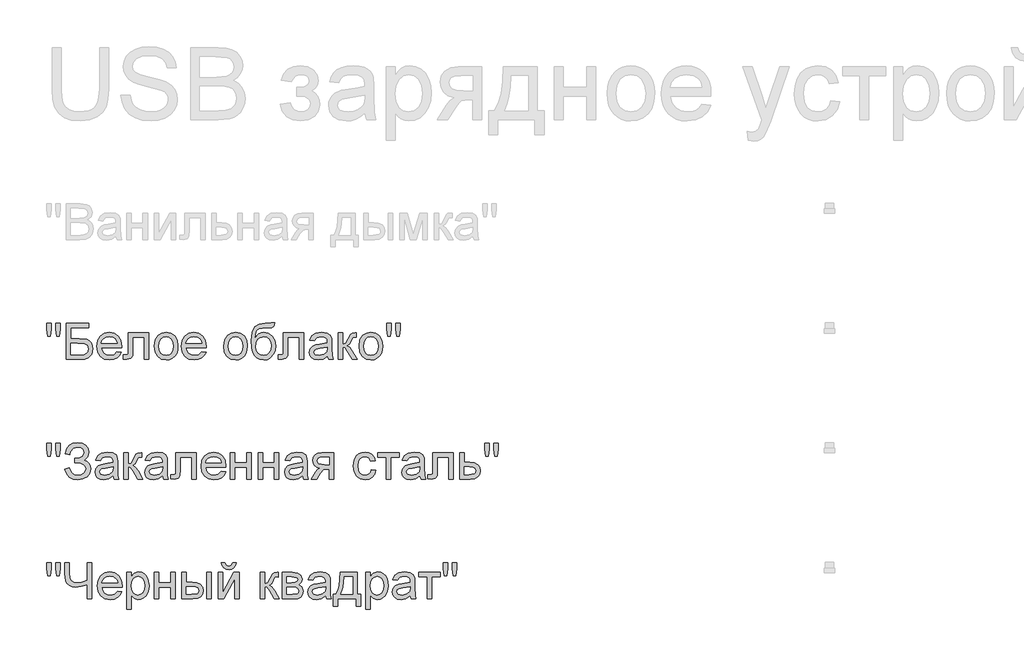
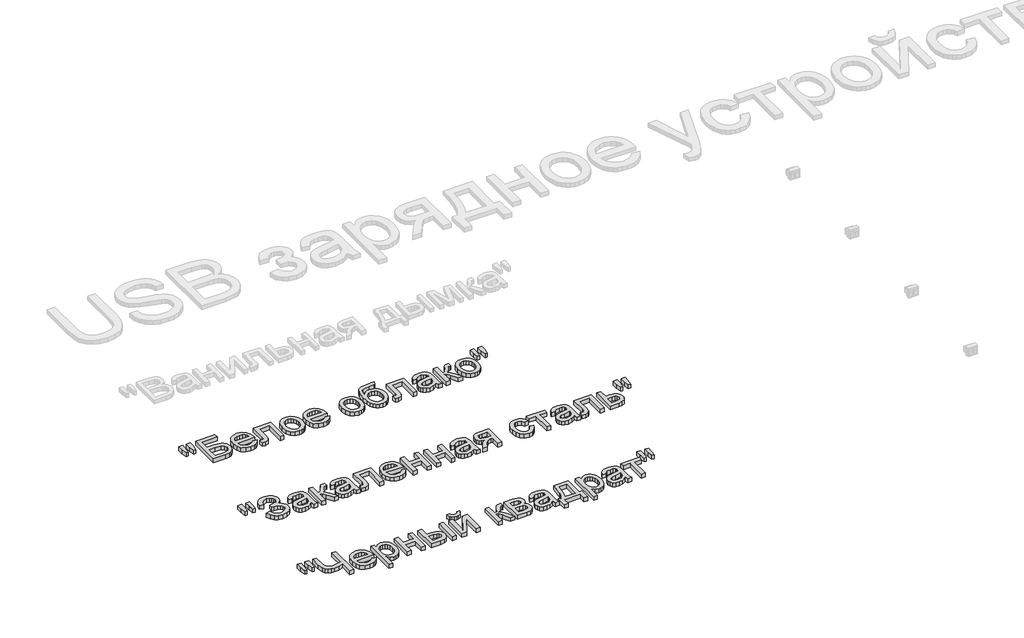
# One storey, part 29 of 168: 3 proxies.
"""IFC4 building model written with IfcOpenShell, lengths in millimetres."""

import ifcopenshell
import ifcopenshell.guid

model = None  # the IFC model being written
_history = None  # IfcOwnerHistory: only IFC2X3 demands one
_inside = {}  # id of a spatial element -> (the spatial element, [elements in it])
_under = {}  # id of a project, library or spatial element -> (it, [spatial elements below it])
_declared = {}  # id of a project -> (the project, [libraries it declares])
_typed = {}  # id of a type object -> (the type object, [elements of that type])
_made_of = {}  # id of a material, layer set ... -> (it, [elements and type objects made of it])


def new_model(schema):
    """Start an empty IFC model of exactly this schema.

    Asked for "IFC4X3", IfcOpenShell would pick the latest addendum, in which some entities
    have other attributes; the version numbers below select the first issue.
    IFC2X3 requires an IfcOwnerHistory on every rooted entity: one is made here for all.
    """
    global model, _history
    if schema == "IFC4X3":
        model = ifcopenshell.file(schema_version=(4, 3, 0, 0))
    else:
        model = ifcopenshell.file(schema=schema)
    _inside.clear()
    _under.clear()
    _declared.clear()
    _typed.clear()
    _made_of.clear()
    _history = None
    if model.schema == "IFC2X3":
        org = make("IfcOrganization", Name="unknown")
        user = make(
            "IfcPersonAndOrganization",
            ThePerson=make("IfcPerson", FamilyName="unknown"),
            TheOrganization=org,
        )
        app = make(
            "IfcApplication",
            ApplicationDeveloper=org,
            Version="unknown",
            ApplicationFullName="unknown",
            ApplicationIdentifier="unknown",
        )
        _history = make(
            "IfcOwnerHistory",
            OwningUser=user,
            OwningApplication=app,
            ChangeAction="ADDED",
            CreationDate=0,
        )
    return model


def make(cls, **values):
    """One entity of the class cls with the attributes given. An attribute that is None is left unset."""
    return model.create_entity(
        cls, **{name: value for name, value in values.items() if value is not None}
    )


def rooted(cls, **values):
    """An entity with a GlobalId (a new one), such as an element, a storey or a relation."""
    return make(cls, GlobalId=ifcopenshell.guid.new(), OwnerHistory=_history, **values)


def si_unit(unit_type, name, prefix=None):
    """IfcSIUnit, for example si_unit("LENGTHUNIT", "METRE", prefix="MILLI")."""
    return make("IfcSIUnit", UnitType=unit_type, Prefix=prefix, Name=name)


def assignment(units):
    """IfcUnitAssignment: the units of a project."""
    return None if units is None else make("IfcUnitAssignment", Units=units)


def point(xyz):
    """IfcCartesianPoint."""
    return None if xyz is None else make("IfcCartesianPoint", Coordinates=xyz)


def direction(xyz):
    """IfcDirection."""
    return None if xyz is None else make("IfcDirection", DirectionRatios=xyz)


def frame(location, z_axis=None, x_axis=None):
    """IfcAxis2Placement3D, a coordinate frame: its origin and axes. An axis left out is left unset."""
    return make(
        "IfcAxis2Placement3D",
        Location=point(location),
        Axis=direction(z_axis),
        RefDirection=direction(x_axis),
    )


def origin():
    """The frame at (0, 0, 0) with its axes left unset."""
    return frame((0.0, 0.0, 0.0))


def origin_with_axes():
    """The frame at (0, 0, 0) with the z axis (0, 0, 1) and the x axis (1, 0, 0) written out."""
    return frame((0.0, 0.0, 0.0), z_axis=(0.0, 0.0, 1.0), x_axis=(1.0, 0.0, 0.0))


def place(relative_to, where):
    """IfcLocalPlacement: puts the frame where relative to a parent placement (None: the world)."""
    return make(
        "IfcLocalPlacement", PlacementRelTo=relative_to, RelativePlacement=where
    )


def context(
    kind, dimensions, precision=None, world=None, true_north=None, identifier=None
):
    """IfcGeometricRepresentationContext, for example the 3D "Model" context."""
    return make(
        "IfcGeometricRepresentationContext",
        ContextIdentifier=identifier,
        ContextType=kind,
        CoordinateSpaceDimension=dimensions,
        Precision=precision,
        WorldCoordinateSystem=world,
        TrueNorth=true_north,
    )


def project(units=None, contexts=None):
    """IfcProject with its units and contexts."""
    return rooted(
        "IfcProject",
        Name="project",
        RepresentationContexts=contexts,
        UnitsInContext=assignment(units),
    )


def spatial(cls, under=None, at=None, **own):
    """A site, building, storey or space (cls), placed at a placement, below another one or the project."""
    s = rooted(cls, ObjectPlacement=at, **own)
    if under is not None:
        _under.setdefault(under.id(), (under, []))[1].append(s)
    return s


def polyline(points):
    """IfcPolyline through the points."""
    return make("IfcPolyline", Points=[point(p) for p in points])


def outline(outer, holes=None, kind="AREA"):
    """IfcArbitraryClosedProfileDef: a profile drawn as a closed curve; with holes, ...WithVoids."""
    if holes is None:
        return make("IfcArbitraryClosedProfileDef", ProfileType=kind, OuterCurve=outer)
    return make(
        "IfcArbitraryProfileDefWithVoids",
        ProfileType=kind,
        OuterCurve=outer,
        InnerCurves=holes,
    )


def extrude(swept, where, along, depth):
    """IfcExtrudedAreaSolid: the profile swept, set in the frame where, extruded along a direction by depth."""
    return make(
        "IfcExtrudedAreaSolid",
        SweptArea=swept,
        Position=where,
        ExtrudedDirection=direction(along),
        Depth=depth,
    )


def shape(context_of_items, identifier, shape_type, items):
    """IfcShapeRepresentation: the items that make up one representation, for example the "Body"."""
    return make(
        "IfcShapeRepresentation",
        ContextOfItems=context_of_items,
        RepresentationIdentifier=identifier,
        RepresentationType=shape_type,
        Items=items,
    )


def made_of(thing, what):
    """Note that an element or type object is made of a material, layer set ...; save() writes the relation."""
    if what is not None:
        _made_of.setdefault(what.id(), (what, []))[1].append(thing)
    return thing


def element(
    cls,
    number,
    at=None,
    inside=None,
    cuts=None,
    type_object=None,
    material=None,
    context=None,
    identifier="Body",
    shape_type=None,
    held_by="IfcProductDefinitionShape",
    body=None,
    shapes=None,
    **own,
):
    """One element of the class cls, such as IfcWall. Its Tag is "e" and its number.

    at: its placement. inside: the storey or other place that contains it. cuts: it is an
    opening in that element (IfcRelVoidsElement). A single representation is given by context,
    identifier, shape_type and body (its items); several are given by shapes. held_by: the class
    of the entity that holds the representations. save() writes the other relations.
    """
    e = rooted(cls, Tag="e%d" % number, ObjectPlacement=at, **own)
    if body is not None:
        shapes = [shape(context, identifier, shape_type, body)]
    if shapes is not None:
        e.Representation = make(held_by, Representations=shapes)
    if inside is not None:
        _inside.setdefault(inside.id(), (inside, []))[1].append(e)
    if cuts is not None:
        rooted(
            "IfcRelVoidsElement", RelatingBuildingElement=cuts, RelatedOpeningElement=e
        )
    if type_object is not None:
        _typed.setdefault(type_object.id(), (type_object, []))[1].append(e)
    return made_of(e, material)


def aggregate(whole, parts):
    """IfcRelAggregates: a whole, such as a stair, and the parts it consists of."""
    return rooted("IfcRelAggregates", RelatingObject=whole, RelatedObjects=parts)


def save(model, path):
    """Write the relations noted so far, then the file.

    IfcRelAggregates (storeys below a building ...), IfcRelContainedInSpatialStructure (elements
    in a storey), IfcRelDefinesByType, IfcRelAssociatesMaterial and IfcRelDeclares: one each for
    every whole, place, type object, material and project.
    """
    for whole, parts in _under.values():
        aggregate(whole, parts)
    for where, things in _inside.values():
        rooted(
            "IfcRelContainedInSpatialStructure",
            RelatedElements=things,
            RelatingStructure=where,
        )
    for kind, things in _typed.values():
        rooted("IfcRelDefinesByType", RelatedObjects=things, RelatingType=kind)
    for what, things in _made_of.values():
        rooted("IfcRelAssociatesMaterial", RelatedObjects=things, RelatingMaterial=what)
    for by, libraries in _declared.values():
        rooted("IfcRelDeclares", RelatingContext=by, RelatedDefinitions=libraries)
    model.write(path)


model = new_model("IFC4")

# Units and contexts
model_context = context("Model", 3, world=origin())
ifc_project = project(units=[si_unit("LENGTHUNIT", "METRE", prefix="MILLI")], contexts=[model_context])

# Site, building, storey
site = spatial("IfcSite", under=ifc_project)
building = spatial("IfcBuilding", under=site)
storey = spatial("IfcBuildingStorey", under=building, Name="Этаж 01", Elevation=0.0)

# Proxies
placement = place(None, origin())
element("IfcBuildingElementProxy", 1, Name="150", ObjectType="150", at=placement, inside=storey, context=model_context, shape_type="SweptSolid", body=[
    extrude(outline(polyline([(60180.1485789, -54070.3300622), (60175.550054, -54041.2305964), (60175.550054, -54016.1778325), (60194.3856121, -54016.1778325), (60194.3856121, -54041.2305964), (60190.2653338, -54070.3300622), (60180.1485789, -54070.3300622)])), origin_with_axes(), (0.0, 0.0, 1.0), 20.0),
    extrude(outline(polyline([(60217.7093306, -54070.3300622), (60213.2211703, -54041.2305964), (60213.2211703, -54016.1778325), (60232.0567284, -54016.1778325), (60232.0567284, -54041.2305964), (60227.6421445, -54070.3300622), (60217.7093306, -54070.3300622)])), origin_with_axes(), (0.0, 0.0, 1.0), 20.0),
    extrude(outline(polyline([(60257.9556209, -54016.1778325), (60352.1334117, -54016.1778325), (60352.1334117, -54035.0133907), (60276.791179, -54035.0133907), (60276.791179, -54079.7478413), (60312.0710624, -54079.7478413), (60343.157091, -54083.573814), (60353.5589544, -54089.101241), (60361.6615553, -54098.0315764), (60366.8762826, -54109.5278888), (60368.614525, -54122.7532465), (60363.6665122, -54144.2191609), (60348.8960501, -54160.5347274), (60335.6247071, -54165.2804052), (60315.4555767, -54166.8622977), (60257.9556209, -54166.8622977), (60257.9556209, -54016.1778325)]), holes=[polyline([(60276.791179, -54148.0267396), (60317.1478339, -54148.0267396), (60331.4124583, -54146.4724382), (60341.6119866, -54141.8095339), (60347.7372218, -54134.0380267), (60349.7789669, -54123.1579167), (60345.1068655, -54108.4058487), (60332.102237, -54100.533174), (60303.7201411, -54098.5833994), (60276.791179, -54098.5833994), (60276.791179, -54148.0267396)])]), origin_with_axes(), (0.0, 0.0, 1.0), 20.0),
    extrude(outline(polyline([(60469.6349209, -54133.900071), (60488.1025971, -54136.2545157), (60481.4485315, -54150.1696522), (60470.8305374, -54160.5715156), (60456.4877381, -54167.0554358), (60438.6592569, -54169.2167425), (60416.5587461, -54165.4873388), (60399.5534008, -54154.2991276), (60388.710079, -54136.3786759), (60385.0956384, -54112.4525506), (60388.7468672, -54087.7216835), (60399.7005536, -54069.2264162), (60416.4759726, -54057.6933157), (60437.5923991, -54053.8489488), (60458.0512366, -54057.6841186), (60474.3989927, -54069.189628), (60485.1181544, -54087.6481071), (60488.6912083, -54112.342186), (60488.5808437, -54117.4189576), (60403.9311966, -54117.4189576), (60407.1915508, -54131.518035), (60414.7653213, -54141.8831103), (60425.6960151, -54148.2566658), (60439.0271389, -54150.3811843), (60457.4948151, -54146.444847), (60469.6349209, -54133.900071)]), holes=[polyline([(60403.9311966, -54098.5833994), (60469.8556501, -54098.5833994), (60467.3080673, -54088.6321915), (60462.3140692, -54081.5136749), (60451.3327917, -54074.8917989), (60437.5188227, -54072.684507), (60424.8222954, -54074.445742), (60414.3238629, -54079.7294472), (60407.0260039, -54087.9654053), (60403.9311966, -54098.5833994)])]), origin_with_axes(), (0.0, 0.0, 1.0), 20.0),
    extrude(outline(polyline([(60516.9445455, -54056.2033936), (60601.7045572, -54056.2033936), (60601.7045572, -54166.7519331), (60582.868999, -54166.7519331), (60582.868999, -54075.0389517), (60535.7801036, -54075.0389517), (60535.7801036, -54127.830018), (60534.5109108, -54152.1838061), (60527.539547, -54162.4661079), (60511.0584336, -54166.8622977), (60495.7545426, -54165.9058045), (60495.7545426, -54148.0267396), (60504.1790403, -54148.0267396), (60512.6955084, -54146.8679113), (60516.0984169, -54143.1890913), (60516.9445455, -54126.7631603), (60516.9445455, -54056.2033936)])), origin_with_axes(), (0.0, 0.0, 1.0), 20.0),
    extrude(outline(polyline([(60625.2490049, -54111.5328457), (60629.323298, -54084.852204), (60641.5461773, -54066.0994193), (60656.6477332, -54056.9115664), (60674.7291332, -54053.8489488), (60694.516586, -54057.5783525), (60710.3217163, -54068.7665637), (60720.6821929, -54086.5306656), (60724.1356852, -54109.9877413), (60722.6089749, -54129.0164375), (60718.0288441, -54143.501791), (60710.5286499, -54154.3497114), (60700.2417496, -54162.4661079), (60688.0234688, -54167.5290839), (60674.7291332, -54169.2167425), (60654.7025571, -54165.5011344), (60638.915821, -54154.3543099), (60628.6657089, -54136.2177275), (60625.2490049, -54111.5328457)]), holes=[polyline([(60644.084563, -54111.4960575), (60646.2642638, -54128.5427894), (60652.8033663, -54140.6874938), (60662.6442097, -54147.9577617), (60674.7291332, -54150.3811843), (60686.7588745, -54147.9439661), (60696.5813237, -54140.6323115), (60703.1204262, -54128.3266587), (60705.300127, -54110.9074463), (60703.1066306, -54094.357355), (60696.5261414, -54082.3781975), (60686.6898966, -54075.1079296), (60674.7291332, -54072.684507), (60662.6442097, -54075.0987326), (60652.8033663, -54082.3414093), (60646.2642638, -54094.4585226), (60644.084563, -54111.4960575)])]), origin_with_axes(), (0.0, 0.0, 1.0), 20.0),
    extrude(outline(polyline([(60822.8016363, -54133.900071), (60841.2693124, -54136.2545157), (60834.6152469, -54150.1696522), (60823.9972528, -54160.5715156), (60809.6544535, -54167.0554358), (60791.8259723, -54169.2167425), (60769.7254614, -54165.4873388), (60752.7201162, -54154.2991276), (60741.8767944, -54136.3786759), (60738.2623538, -54112.4525506), (60741.9135826, -54087.7216835), (60752.867269, -54069.2264162), (60769.642688, -54057.6933157), (60790.7591145, -54053.8489488), (60811.217952, -54057.6841186), (60827.5657081, -54069.189628), (60838.2848698, -54087.6481071), (60841.8579236, -54112.342186), (60841.747559, -54117.4189576), (60757.0979119, -54117.4189576), (60760.3582661, -54131.518035), (60767.9320367, -54141.8831103), (60778.8627305, -54148.2566658), (60792.1938543, -54150.3811843), (60810.6615304, -54146.444847), (60822.8016363, -54133.900071)]), holes=[polyline([(60757.0979119, -54098.5833994), (60823.0223655, -54098.5833994), (60820.4747827, -54088.6321915), (60815.4807846, -54081.5136749), (60804.499507, -54074.8917989), (60790.6855381, -54072.684507), (60777.9890107, -54074.445742), (60767.4905783, -54079.7294472), (60760.1927192, -54087.9654053), (60757.0979119, -54098.5833994)])]), origin_with_axes(), (0.0, 0.0, 1.0), 20.0),
    extrude(outline(polyline([(60914.8457115, -54111.5328457), (60918.9200046, -54084.852204), (60931.1428839, -54066.0994193), (60946.2444398, -54056.9115664), (60964.3258398, -54053.8489488), (60984.1132926, -54057.5783525), (60999.9184229, -54068.7665637), (61010.2788995, -54086.5306656), (61013.7323918, -54109.9877413), (61012.2056815, -54129.0164375), (61007.6255507, -54143.501791), (61000.1253565, -54154.3497114), (60989.8384562, -54162.4661079), (60977.6201754, -54167.5290839), (60964.3258398, -54169.2167425), (60944.2992637, -54165.5011344), (60928.5125276, -54154.3543099), (60918.2624155, -54136.2177275), (60914.8457115, -54111.5328457)]), holes=[polyline([(60933.6812696, -54111.4960575), (60935.8609704, -54128.5427894), (60942.4000729, -54140.6874938), (60952.2409163, -54147.9577617), (60964.3258398, -54150.3811843), (60976.3555811, -54147.9439661), (60986.1780303, -54140.6323115), (60992.7171328, -54128.3266587), (60994.8968336, -54110.9074463), (60992.7033372, -54094.357355), (60986.122848, -54082.3781975), (60976.2866032, -54075.1079296), (60964.3258398, -54072.684507), (60952.2409163, -54075.0987326), (60942.4000729, -54082.3414093), (60935.8609704, -54094.4585226), (60933.6812696, -54111.4960575)])]), origin_with_axes(), (0.0, 0.0, 1.0), 20.0),
    extrude(outline(polyline([(61112.6190721, -54013.8233877), (61129.1001855, -54013.8233877), (61124.2441431, -54028.5202734), (61114.6424231, -54033.8361683), (61091.576222, -54035.0133907), (61060.5085875, -54039.3543982), (61053.3808738, -54045.0013868), (61048.5892108, -54053.2603376), (61044.560903, -54077.8716431), (61060.8764695, -54059.8454253), (61070.7954878, -54055.3480679), (61081.9009255, -54053.8489488), (61101.4998388, -54057.661126), (61117.401538, -54069.0976575), (61127.9413572, -54087.0365033), (61131.4546302, -54110.3556233), (61129.7117893, -54128.3358558), (61124.4832664, -54142.766027), (61107.9469707, -54162.3189551), (61096.6529935, -54167.4922957), (61081.9009255, -54169.2167425), (61064.9001788, -54166.995655), (61052.1576662, -54160.3323923), (61042.7812738, -54150.2064404), (61035.8788879, -54137.597285), (61031.6298508, -54118.6099755), (61030.2135052, -54089.3495614), (61033.786559, -54053.2097538), (61044.5057207, -54031.1690238), (61062.6377045, -54019.9256303), (61088.449225, -54016.1778325), (61109.4184987, -54015.7547682), (61112.6190721, -54013.8233877)]), holes=[polyline([(61112.6190721, -54109.7670121), (61110.577327, -54094.9459662), (61104.4520918, -54083.0771733), (61094.6112484, -54075.2826736), (61081.4226789, -54072.684507), (61067.6730893, -54075.4298264), (61057.473561, -54083.6657845), (61051.1551877, -54096.4910706), (61049.0490633, -54113.0043736), (61051.3759169, -54129.011839), (61058.3564778, -54140.7610702), (61068.7491442, -54147.9761558), (61081.3123143, -54150.3811843), (61093.9398638, -54147.5990768), (61103.937057, -54139.252754), (61110.4485683, -54126.3171033), (61112.6190721, -54109.7670121)])]), origin_with_axes(), (0.0, 0.0, 1.0), 20.0),
    extrude(outline(polyline([(61164.416857, -54056.2033936), (61249.1768687, -54056.2033936), (61249.1768687, -54166.7519331), (61230.3413105, -54166.7519331), (61230.3413105, -54075.0389517), (61183.2524152, -54075.0389517), (61183.2524152, -54127.830018), (61181.9832223, -54152.1838061), (61175.0118585, -54162.4661079), (61158.5307451, -54166.8622977), (61143.2268541, -54165.9058045), (61143.2268541, -54148.0267396), (61151.6513518, -54148.0267396), (61160.16782, -54146.8679113), (61163.5707284, -54143.1890913), (61164.416857, -54126.7631603), (61164.416857, -54056.2033936)])), origin_with_axes(), (0.0, 0.0, 1.0), 20.0),
    extrude(outline(polyline([(61348.063549, -54152.7356291), (61329.7982079, -54165.5011344), (61309.6198805, -54169.2167425), (61293.8791296, -54166.9818594), (61282.2678542, -54160.27721), (61275.1079508, -54150.0960758), (61272.7213164, -54137.4317381), (61276.3265599, -54122.5325173), (61285.7995213, -54111.7167867), (61298.9880908, -54105.5363691), (61315.2852632, -54102.7036778), (61347.9531844, -54096.2289547), (61348.063549, -54092.0350999), (61346.766765, -54083.6289963), (61342.8764129, -54078.1291605), (61334.1760037, -54074.0456704), (61322.0542919, -54072.684507), (61302.9980046, -54076.3081446), (61293.9113193, -54089.1656204), (61275.0757612, -54086.8111756), (61283.2243473, -54068.4170758), (61299.6318843, -54057.6381334), (61324.4823131, -54053.8489488), (61347.3093909, -54057.196675), (61360.2036548, -54065.6027786), (61365.9794022, -54078.3866779), (61366.8991071, -54094.8677913), (61366.8991071, -54118.3018744), (61367.8556003, -54151.0249778), (61371.6079967, -54166.8622977), (61352.7724385, -54166.8622977), (61348.063549, -54152.7356291)]), holes=[polyline([(61348.063549, -54115.0645128), (61317.6764962, -54120.8402601), (61301.4712943, -54123.8936807), (61294.1320485, -54128.8600876), (61291.5568745, -54136.1073629), (61297.167075, -54146.2976942), (61313.6297942, -54150.3811843), (61332.6860816, -54145.8746299), (61344.9733402, -54134.9669288), (61347.9531844, -54120.3988017), (61348.063549, -54115.0645128)])]), origin_with_axes(), (0.0, 0.0, 1.0), 20.0),
    extrude(outline(polyline([(61392.7979996, -54056.2033936), (61411.6335578, -54056.2033936), (61411.6335578, -54103.292289), (61424.2519102, -54099.9077746), (61434.5893943, -54080.1892997), (61443.1794388, -54063.1747574), (61450.7578079, -54057.6381334), (61464.5349887, -54056.2033936), (61468.1402322, -54056.2033936), (61468.1402322, -54075.1493163), (61463.0634607, -54075.0389517), (61453.8664108, -54077.0255145), (61447.3916877, -54089.4231377), (61439.7949245, -54102.8324365), (61429.1447407, -54109.3991301), (61441.0273292, -54116.7291788), (61452.6891884, -54132.1710256), (61472.8491218, -54166.8622977), (61451.4383896, -54166.8622977), (61431.6831265, -54132.9067896), (61421.7503126, -54118.5409977), (61411.6335578, -54115.0645128), (61411.6335578, -54166.8622977), (61392.7979996, -54166.8622977), (61392.7979996, -54056.2033936)])), origin_with_axes(), (0.0, 0.0, 1.0), 20.0),
    extrude(outline(polyline([(61479.9124561, -54111.5328457), (61483.9867492, -54084.852204), (61496.2096285, -54066.0994193), (61511.3111844, -54056.9115664), (61529.3925844, -54053.8489488), (61549.1800372, -54057.5783525), (61564.9851674, -54068.7665637), (61575.3456441, -54086.5306656), (61578.7991364, -54109.9877413), (61577.2724261, -54129.0164375), (61572.6922952, -54143.501791), (61565.1921011, -54154.3497114), (61554.9052008, -54162.4661079), (61542.68692, -54167.5290839), (61529.3925844, -54169.2167425), (61509.3660083, -54165.5011344), (61493.5792722, -54154.3543099), (61483.3291601, -54136.2177275), (61479.9124561, -54111.5328457)]), holes=[polyline([(61498.7480142, -54111.4960575), (61500.927715, -54128.5427894), (61507.4668175, -54140.6874938), (61517.3076609, -54147.9577617), (61529.3925844, -54150.3811843), (61541.4223257, -54147.9439661), (61551.2447749, -54140.6323115), (61557.7838774, -54128.3266587), (61559.9635782, -54110.9074463), (61557.7700818, -54094.357355), (61551.1895926, -54082.3781975), (61541.3533478, -54075.1079296), (61529.3925844, -54072.684507), (61517.3076609, -54075.0987326), (61507.4668175, -54082.3414093), (61500.927715, -54094.4585226), (61498.7480142, -54111.4960575)])]), origin_with_axes(), (0.0, 0.0, 1.0), 20.0),
    extrude(outline(polyline([(61599.8787747, -54070.3300622), (61595.2802498, -54041.2305964), (61595.2802498, -54016.1778325), (61614.1158079, -54016.1778325), (61614.1158079, -54041.2305964), (61609.9955296, -54070.3300622), (61599.8787747, -54070.3300622)])), origin_with_axes(), (0.0, 0.0, 1.0), 20.0),
    extrude(outline(polyline([(61637.4395264, -54070.3300622), (61632.9513661, -54041.2305964), (61632.9513661, -54016.1778325), (61651.7869242, -54016.1778325), (61651.7869242, -54041.2305964), (61647.3723403, -54070.3300622), (61637.4395264, -54070.3300622)])), origin_with_axes(), (0.0, 0.0, 1.0), 20.0),
])
element("IfcBuildingElementProxy", 2, Name="150", ObjectType="150", at=placement, inside=storey, context=model_context, shape_type="SweptSolid", body=[
    extrude(outline(polyline([(60180.1485789, -54570.3300622), (60175.550054, -54541.2305964), (60175.550054, -54516.1778325), (60194.3856121, -54516.1778325), (60194.3856121, -54541.2305964), (60190.2653338, -54570.3300622), (60180.1485789, -54570.3300622)])), origin_with_axes(), (0.0, 0.0, 1.0), 20.0),
    extrude(outline(polyline([(60217.7093306, -54570.3300622), (60213.2211703, -54541.2305964), (60213.2211703, -54516.1778325), (60232.0567284, -54516.1778325), (60232.0567284, -54541.2305964), (60227.6421445, -54570.3300622), (60217.7093306, -54570.3300622)])), origin_with_axes(), (0.0, 0.0, 1.0), 20.0),
    extrude(outline(polyline([(60250.8922866, -54624.4822919), (60269.7278447, -54619.7734024), (60281.2977335, -54640.172459), (60292.2284273, -54647.829003), (60306.2217387, -54650.3811843), (60320.398991, -54648.4635995), (60331.2193202, -54642.7108448), (60338.0757209, -54634.2449603), (60340.3611878, -54624.1879863), (60337.8641888, -54613.6527657), (60330.3731916, -54605.517975), (60318.5779752, -54600.3170433), (60303.1683181, -54598.5833994), (60293.2722924, -54598.5833994), (60293.2722924, -54579.7478413), (60314.591054, -54578.221131), (60327.6324708, -54570.4220327), (60333.2978535, -54556.1666054), (60331.4124583, -54547.2960508), (60325.7562726, -54539.6670979), (60316.8811195, -54534.4109839), (60305.3388219, -54532.6589459), (60286.1169876, -54538.0484171), (60275.117316, -54552.3406326), (60272.0822895, -54565.6211727), (60253.2467313, -54560.9122831), (60259.0983543, -54540.3108914), (60269.7002536, -54525.5956116), (60285.0524291, -54516.7664437), (60305.1548809, -54513.8233877), (60324.5468605, -54516.8814068), (60339.4598769, -54526.0554641), (60348.965028, -54539.3222085), (60352.1334117, -54554.6582892), (60347.2037929, -54573.3007093), (60332.4149367, -54587.2158458), (60342.8903765, -54592.0396984), (60351.5080123, -54600.1836861), (60357.2745625, -54610.948833), (60359.196746, -54623.6361633), (60355.508729, -54641.4738415), (60344.444678, -54656.1385376), (60327.2921799, -54665.9471913), (60305.3388219, -54669.2167425), (60286.2365493, -54666.4208393), (60270.7947025, -54658.0331298), (60259.0132816, -54644.053614), (60250.8922866, -54624.4822919)])), origin_with_axes(), (0.0, 0.0, 1.0), 20.0),
    extrude(outline(polyline([(60453.3745367, -54652.7356291), (60435.1091957, -54665.5011344), (60414.9308682, -54669.2167425), (60399.1901174, -54666.9818594), (60387.5788419, -54660.27721), (60380.4189386, -54650.0960758), (60378.0323041, -54637.4317381), (60381.6375477, -54622.5325173), (60391.110509, -54611.7167867), (60404.2990786, -54605.5363691), (60420.596251, -54602.7036778), (60453.2641721, -54596.2289547), (60453.3745367, -54592.0350999), (60452.0777527, -54583.6289963), (60448.1874006, -54578.1291605), (60439.4869914, -54574.0456704), (60427.3652797, -54572.684507), (60408.3089923, -54576.3081446), (60399.222307, -54589.1656204), (60380.3867489, -54586.8111756), (60388.5353351, -54568.4170758), (60404.9428721, -54557.6381334), (60429.7933008, -54553.8489488), (60452.6203786, -54557.196675), (60465.5146426, -54565.6027786), (60471.2903899, -54578.3866779), (60472.2100949, -54594.8677913), (60472.2100949, -54618.3018744), (60473.1665881, -54651.0249778), (60476.9189844, -54666.8622977), (60458.0834263, -54666.8622977), (60453.3745367, -54652.7356291)]), holes=[polyline([(60453.3745367, -54615.0645128), (60422.9874839, -54620.8402601), (60406.782282, -54623.8936807), (60399.4430362, -54628.8600876), (60396.8678623, -54636.1073629), (60402.4780627, -54646.2976942), (60418.940782, -54650.3811843), (60437.9970693, -54645.8746299), (60450.284328, -54634.9669288), (60453.2641721, -54620.3988017), (60453.3745367, -54615.0645128)])]), origin_with_axes(), (0.0, 0.0, 1.0), 20.0),
    extrude(outline(polyline([(60498.1089873, -54556.2033936), (60516.9445455, -54556.2033936), (60516.9445455, -54603.292289), (60529.5628979, -54599.9077746), (60539.900382, -54580.1892997), (60548.4904266, -54563.1747574), (60556.0687957, -54557.6381334), (60569.8459764, -54556.2033936), (60573.4512199, -54556.2033936), (60573.4512199, -54575.1493163), (60568.3744484, -54575.0389517), (60559.1773985, -54577.0255145), (60552.7026754, -54589.4231377), (60545.1059122, -54602.8324365), (60534.4557285, -54609.3991301), (60546.3383169, -54616.7291788), (60558.0001762, -54632.1710256), (60578.1601095, -54666.8622977), (60556.7493774, -54666.8622977), (60536.9941142, -54632.9067896), (60527.0613004, -54618.5409977), (60516.9445455, -54615.0645128), (60516.9445455, -54666.8622977), (60498.1089873, -54666.8622977), (60498.1089873, -54556.2033936)])), origin_with_axes(), (0.0, 0.0, 1.0), 20.0),
    extrude(outline(polyline([(60660.5656764, -54652.7356291), (60642.3003353, -54665.5011344), (60622.1220079, -54669.2167425), (60606.381257, -54666.9818594), (60594.7699816, -54660.27721), (60587.6100782, -54650.0960758), (60585.2234438, -54637.4317381), (60588.8286873, -54622.5325173), (60598.3016487, -54611.7167867), (60611.4902183, -54605.5363691), (60627.7873906, -54602.7036778), (60660.4553118, -54596.2289547), (60660.5656764, -54592.0350999), (60659.2688924, -54583.6289963), (60655.3785403, -54578.1291605), (60646.6781311, -54574.0456704), (60634.5564193, -54572.684507), (60615.500132, -54576.3081446), (60606.4134467, -54589.1656204), (60587.5778886, -54586.8111756), (60595.7264748, -54568.4170758), (60612.1340117, -54557.6381334), (60636.9844405, -54553.8489488), (60659.8115183, -54557.196675), (60672.7057822, -54565.6027786), (60678.4815296, -54578.3866779), (60679.4012346, -54594.8677913), (60679.4012346, -54618.3018744), (60680.3577277, -54651.0249778), (60684.1101241, -54666.8622977), (60665.2745659, -54666.8622977), (60660.5656764, -54652.7356291)]), holes=[polyline([(60660.5656764, -54615.0645128), (60630.1786236, -54620.8402601), (60613.9734217, -54623.8936807), (60606.6341759, -54628.8600876), (60604.0590019, -54636.1073629), (60609.6692024, -54646.2976942), (60626.1319217, -54650.3811843), (60645.188209, -54645.8746299), (60657.4754676, -54634.9669288), (60660.4553118, -54620.3988017), (60660.5656764, -54615.0645128)])]), origin_with_axes(), (0.0, 0.0, 1.0), 20.0),
    extrude(outline(polyline([(60714.7179061, -54556.2033936), (60799.4779178, -54556.2033936), (60799.4779178, -54666.7519331), (60780.6423596, -54666.7519331), (60780.6423596, -54575.0389517), (60733.5534643, -54575.0389517), (60733.5534643, -54627.830018), (60732.2842714, -54652.1838061), (60725.3129076, -54662.4661079), (60708.8317942, -54666.8622977), (60693.5279032, -54665.9058045), (60693.5279032, -54648.0267396), (60701.9524009, -54648.0267396), (60710.4688691, -54646.8679113), (60713.8717775, -54643.1890913), (60714.7179061, -54626.7631603), (60714.7179061, -54556.2033936)])), origin_with_axes(), (0.0, 0.0, 1.0), 20.0),
    extrude(outline(polyline([(60905.2072032, -54633.900071), (60923.6748794, -54636.2545157), (60917.0208138, -54650.1696522), (60906.4028197, -54660.5715156), (60892.0600204, -54667.0554358), (60874.2315392, -54669.2167425), (60852.1310283, -54665.4873388), (60835.1256831, -54654.2991276), (60824.2823613, -54636.3786759), (60820.6679207, -54612.4525506), (60824.3191495, -54587.7216835), (60835.2728359, -54569.2264162), (60852.0482549, -54557.6933157), (60873.1646814, -54553.8489488), (60893.6235189, -54557.6841186), (60909.971275, -54569.189628), (60920.6904367, -54587.6481071), (60924.2634906, -54612.342186), (60924.153126, -54617.4189576), (60839.5034789, -54617.4189576), (60842.763833, -54631.518035), (60850.3376036, -54641.8831103), (60861.2682974, -54648.2566658), (60874.5994212, -54650.3811843), (60893.0670974, -54646.444847), (60905.2072032, -54633.900071)]), holes=[polyline([(60839.5034789, -54598.5833994), (60905.4279324, -54598.5833994), (60902.8803496, -54588.6321915), (60897.8863515, -54581.5136749), (60886.9050739, -54574.8917989), (60873.091105, -54572.684507), (60860.3945777, -54574.445742), (60849.8961452, -54579.7294472), (60842.5982861, -54587.9654053), (60839.5034789, -54598.5833994)])]), origin_with_axes(), (0.0, 0.0, 1.0), 20.0),
    extrude(outline(polyline([(60943.0990487, -54556.2033936), (60961.9346069, -54556.2033936), (60961.9346069, -54598.5833994), (61011.377947, -54598.5833994), (61011.377947, -54556.2033936), (61030.2135052, -54556.2033936), (61030.2135052, -54666.8622977), (61011.377947, -54666.8622977), (61011.377947, -54617.4189576), (60961.9346069, -54617.4189576), (60961.9346069, -54666.8622977), (60943.0990487, -54666.8622977), (60943.0990487, -54556.2033936)])), origin_with_axes(), (0.0, 0.0, 1.0), 20.0),
    extrude(outline(polyline([(61058.4668424, -54556.2033936), (61077.3024005, -54556.2033936), (61077.3024005, -54598.5833994), (61126.7457407, -54598.5833994), (61126.7457407, -54556.2033936), (61145.5812988, -54556.2033936), (61145.5812988, -54666.8622977), (61126.7457407, -54666.8622977), (61126.7457407, -54617.4189576), (61077.3024005, -54617.4189576), (61077.3024005, -54666.8622977), (61058.4668424, -54666.8622977), (61058.4668424, -54556.2033936)])), origin_with_axes(), (0.0, 0.0, 1.0), 20.0),
    extrude(outline(polyline([(61244.4679792, -54652.7356291), (61226.2026381, -54665.5011344), (61206.0243107, -54669.2167425), (61190.2835598, -54666.9818594), (61178.6722843, -54660.27721), (61171.512381, -54650.0960758), (61169.1257465, -54637.4317381), (61172.7309901, -54622.5325173), (61182.2039515, -54611.7167867), (61195.392521, -54605.5363691), (61211.6896934, -54602.7036778), (61244.3576146, -54596.2289547), (61244.4679792, -54592.0350999), (61243.1711951, -54583.6289963), (61239.280843, -54578.1291605), (61230.5804338, -54574.0456704), (61218.4587221, -54572.684507), (61199.4024347, -54576.3081446), (61190.3157495, -54589.1656204), (61171.4801913, -54586.8111756), (61179.6287775, -54568.4170758), (61196.0363145, -54557.6381334), (61220.8867433, -54553.8489488), (61243.7138211, -54557.196675), (61256.608085, -54565.6027786), (61262.3838323, -54578.3866779), (61263.3035373, -54594.8677913), (61263.3035373, -54618.3018744), (61264.2600305, -54651.0249778), (61268.0124268, -54666.8622977), (61249.1768687, -54666.8622977), (61244.4679792, -54652.7356291)]), holes=[polyline([(61244.4679792, -54615.0645128), (61214.0809264, -54620.8402601), (61197.8757245, -54623.8936807), (61190.5364787, -54628.8600876), (61187.9613047, -54636.1073629), (61193.5715051, -54646.2976942), (61210.0342244, -54650.3811843), (61229.0905118, -54645.8746299), (61241.3777704, -54634.9669288), (61244.3576146, -54620.3988017), (61244.4679792, -54615.0645128)])]), origin_with_axes(), (0.0, 0.0, 1.0), 20.0),
    extrude(outline(polyline([(61373.9624415, -54556.2033936), (61373.9624415, -54666.8622977), (61355.1268833, -54666.8622977), (61355.1268833, -54624.4822919), (61344.8629756, -54624.4822919), (61330.8834598, -54626.8735249), (61317.7500726, -54642.949968), (61302.7404872, -54666.8622977), (61280.9618731, -54666.8622977), (61299.8710076, -54636.6223977), (61308.2219289, -54625.7698789), (61315.9106626, -54620.9506247), (61303.0347928, -54617.0050903), (61293.9848957, -54609.5094947), (61288.6322127, -54599.5398926), (61286.847985, -54588.172339), (61289.2852032, -54575.278075), (61296.5968579, -54565.0693497), (61308.5254316, -54558.4198826), (61324.8134069, -54556.2033936), (61373.9624415, -54556.2033936)]), holes=[polyline([(61355.1268833, -54575.0389517), (61330.2948486, -54575.0389517), (61317.4695626, -54576.1288021), (61310.1900976, -54579.3983534), (61305.6835431, -54589.6070787), (61307.3436107, -54596.7853762), (61312.3238132, -54601.7655787), (61335.8498668, -54605.6467337), (61355.1268833, -54605.6467337), (61355.1268833, -54575.0389517)])]), origin_with_axes(), (0.0, 0.0, 1.0), 20.0),
    extrude(outline(polyline([(61531.710241, -54626.8367367), (61550.5457991, -54629.1911814), (61545.2942837, -54645.9436078), (61535.4258491, -54658.6033469), (61521.8693976, -54666.5633936), (61505.5538311, -54669.2167425), (61485.518058, -54665.5149299), (61469.8508835, -54654.4094922), (61459.7387272, -54636.387873), (61456.3680084, -54611.9375159), (61457.8073467, -54595.1758924), (61462.1253616, -54580.6491522), (61469.391031, -54568.918315), (61479.6733328, -54560.5444011), (61491.974387, -54555.5228119), (61505.2963137, -54553.8489488), (61521.2118085, -54556.1482113), (61533.9359271, -54563.0459987), (61543.0639991, -54574.174429), (61548.1913544, -54589.1656204), (61529.3557962, -54591.5200651), (61520.6185988, -54577.4117906), (61505.4434665, -54572.684507), (61493.271171, -54575.0113606), (61483.6096701, -54581.9919214), (61477.3050924, -54594.0032686), (61475.2035665, -54611.4224811), (61477.2591072, -54629.0762183), (61483.4257291, -54641.1289522), (61492.9124861, -54648.0681263), (61504.9284317, -54650.3811843), (61514.6819031, -54648.9372475), (61522.678738, -54644.605437), (61528.4958721, -54637.2753883), (61531.710241, -54626.8367367)])), origin_with_axes(), (0.0, 0.0, 1.0), 20.0),
    extrude(outline(polyline([(61557.6091334, -54556.2033936), (61647.0780347, -54556.2033936), (61647.0780347, -54575.0389517), (61611.7613631, -54575.0389517), (61611.7613631, -54666.8622977), (61592.925805, -54666.8622977), (61592.925805, -54575.0389517), (61557.6091334, -54575.0389517), (61557.6091334, -54556.2033936)])), origin_with_axes(), (0.0, 0.0, 1.0), 20.0),
    extrude(outline(polyline([(61734.1924911, -54652.7356291), (61715.9271501, -54665.5011344), (61695.7488226, -54669.2167425), (61680.0080718, -54666.9818594), (61668.3967963, -54660.27721), (61661.236893, -54650.0960758), (61658.8502585, -54637.4317381), (61662.4555021, -54622.5325173), (61671.9284634, -54611.7167867), (61685.117033, -54605.5363691), (61701.4142054, -54602.7036778), (61734.0821265, -54596.2289547), (61734.1924911, -54592.0350999), (61732.8957071, -54583.6289963), (61729.005355, -54578.1291605), (61720.3049458, -54574.0456704), (61708.1832341, -54572.684507), (61689.1269467, -54576.3081446), (61680.0402614, -54589.1656204), (61661.2047033, -54586.8111756), (61669.3532895, -54568.4170758), (61685.7608265, -54557.6381334), (61710.6112552, -54553.8489488), (61733.438333, -54557.196675), (61746.332597, -54565.6027786), (61752.1083443, -54578.3866779), (61753.0280493, -54594.8677913), (61753.0280493, -54618.3018744), (61753.9845425, -54651.0249778), (61757.7369388, -54666.8622977), (61738.9013807, -54666.8622977), (61734.1924911, -54652.7356291)]), holes=[polyline([(61734.1924911, -54615.0645128), (61703.8054383, -54620.8402601), (61687.6002364, -54623.8936807), (61680.2609906, -54628.8600876), (61677.6858167, -54636.1073629), (61683.2960171, -54646.2976942), (61699.7587364, -54650.3811843), (61718.8150237, -54645.8746299), (61731.1022824, -54634.9669288), (61734.0821265, -54620.3988017), (61734.1924911, -54615.0645128)])]), origin_with_axes(), (0.0, 0.0, 1.0), 20.0),
    extrude(outline(polyline([(61788.3447208, -54556.2033936), (61873.1047325, -54556.2033936), (61873.1047325, -54666.7519331), (61854.2691744, -54666.7519331), (61854.2691744, -54575.0389517), (61807.180279, -54575.0389517), (61807.180279, -54627.830018), (61805.9110861, -54652.1838061), (61798.9397223, -54662.4661079), (61782.4586089, -54666.8622977), (61767.1547179, -54665.9058045), (61767.1547179, -54648.0267396), (61775.5792156, -54648.0267396), (61784.0956838, -54646.8679113), (61787.4985922, -54643.1890913), (61788.3447208, -54626.7631603), (61788.3447208, -54556.2033936)])), origin_with_axes(), (0.0, 0.0, 1.0), 20.0),
    extrude(outline(polyline([(61901.3580697, -54556.2033936), (61920.1936279, -54556.2033936), (61920.1936279, -54596.2289547), (61941.8986656, -54596.2289547), (61960.7158297, -54598.587998), (61974.6401632, -54605.6651278), (61983.2486019, -54616.8901272), (61986.1180814, -54631.692779), (61983.6762647, -54645.1710556), (61976.3508145, -54656.5432078), (61963.6542871, -54664.2825252), (61945.099239, -54666.8622977), (61901.3580697, -54666.8622977), (61901.3580697, -54556.2033936)]), holes=[polyline([(61920.1936279, -54648.0267396), (61937.7783873, -54648.0267396), (61960.4951005, -54644.0720081), (61965.5856676, -54639.0090322), (61967.2825233, -54631.7295672), (61962.260934, -54620.1412843), (61954.1905228, -54616.3337057), (61940.0224674, -54615.0645128), (61920.1936279, -54615.0645128), (61920.1936279, -54648.0267396)])]), origin_with_axes(), (0.0, 0.0, 1.0), 20.0),
    extrude(outline(polyline([(62009.5521645, -54570.3300622), (62004.9536396, -54541.2305964), (62004.9536396, -54516.1778325), (62023.7891977, -54516.1778325), (62023.7891977, -54541.2305964), (62019.6689194, -54570.3300622), (62009.5521645, -54570.3300622)])), origin_with_axes(), (0.0, 0.0, 1.0), 20.0),
    extrude(outline(polyline([(62047.1129162, -54570.3300622), (62042.6247559, -54541.2305964), (62042.6247559, -54516.1778325), (62061.460314, -54516.1778325), (62061.460314, -54541.2305964), (62057.0457301, -54570.3300622), (62047.1129162, -54570.3300622)])), origin_with_axes(), (0.0, 0.0, 1.0), 20.0),
])
element("IfcBuildingElementProxy", 3, Name="150", ObjectType="150", at=placement, inside=storey, context=model_context, shape_type="SweptSolid", body=[
    extrude(outline(polyline([(60180.1485789, -55070.3300622), (60175.550054, -55041.2305964), (60175.550054, -55016.1778325), (60194.3856121, -55016.1778325), (60194.3856121, -55041.2305964), (60190.2653338, -55070.3300622), (60180.1485789, -55070.3300622)])), origin_with_axes(), (0.0, 0.0, 1.0), 20.0),
    extrude(outline(polyline([(60217.7093306, -55070.3300622), (60213.2211703, -55041.2305964), (60213.2211703, -55016.1778325), (60232.0567284, -55016.1778325), (60232.0567284, -55041.2305964), (60227.6421445, -55070.3300622), (60217.7093306, -55070.3300622)])), origin_with_axes(), (0.0, 0.0, 1.0), 20.0),
    extrude(outline(polyline([(60363.9056355, -55166.8622977), (60345.0700773, -55166.8622977), (60345.0700773, -55106.5296505), (60320.0908899, -55114.6966308), (60298.4226404, -55117.4189576), (60283.7395502, -55115.556555), (60270.886673, -55109.9693472), (60260.926268, -55101.5172583), (60254.9205944, -55091.0602126), (60250.8922866, -55061.0594359), (60250.8922866, -55016.1778325), (60269.7278447, -55016.1778325), (60269.7278447, -55058.5210502), (60271.990319, -55078.8879171), (60278.7777418, -55090.8394834), (60288.7381468, -55096.6474204), (60300.5195677, -55098.5833994), (60322.2521966, -55096.2473488), (60345.0700773, -55089.2391968), (60345.0700773, -55016.1778325), (60363.9056355, -55016.1778325), (60363.9056355, -55166.8622977)])), origin_with_axes(), (0.0, 0.0, 1.0), 20.0),
    extrude(outline(polyline([(60471.9893657, -55133.900071), (60490.4570418, -55136.2545157), (60483.8029762, -55150.1696522), (60473.1849822, -55160.5715156), (60458.8421829, -55167.0554358), (60441.0137017, -55169.2167425), (60418.9131908, -55165.4873388), (60401.9078456, -55154.2991276), (60391.0645238, -55136.3786759), (60387.4500832, -55112.4525506), (60391.101312, -55087.7216835), (60402.0549984, -55069.2264162), (60418.8304174, -55057.6933157), (60439.9468439, -55053.8489488), (60460.4056814, -55057.6841186), (60476.7534375, -55069.189628), (60487.4725992, -55087.6481071), (60491.045653, -55112.342186), (60490.9352884, -55117.4189576), (60406.2856413, -55117.4189576), (60409.5459955, -55131.518035), (60417.1197661, -55141.8831103), (60428.0504599, -55148.2566658), (60441.3815837, -55150.3811843), (60459.8492598, -55146.444847), (60471.9893657, -55133.900071)]), holes=[polyline([(60406.2856413, -55098.5833994), (60472.2100949, -55098.5833994), (60469.6625121, -55088.6321915), (60464.668514, -55081.5136749), (60453.6872364, -55074.8917989), (60439.8732675, -55072.684507), (60427.1767401, -55074.445742), (60416.6783077, -55079.7294472), (60409.3804486, -55087.9654053), (60406.2856413, -55098.5833994)])]), origin_with_axes(), (0.0, 0.0, 1.0), 20.0),
    extrude(outline(polyline([(60509.8812112, -55209.2423036), (60509.8812112, -55056.2033936), (60528.7167693, -55056.2033936), (60528.7167693, -55074.6710697), (60541.739792, -55059.054479), (60559.3245513, -55053.8489488), (60572.0624654, -55055.6699647), (60583.2000928, -55061.1330123), (60592.268384, -55069.9069979), (60598.7982894, -55081.6608277), (60604.0590019, -55110.6867171), (60602.5736784, -55126.7953499), (60598.1177077, -55141.2025286), (60590.8336442, -55153.1770875), (60580.8640422, -55161.9878613), (60569.2527667, -55167.4095222), (60557.043683, -55169.2167425), (60540.6545401, -55164.3790943), (60528.7167693, -55152.1470179), (60528.7167693, -55209.2423036), (60509.8812112, -55209.2423036)]), holes=[polyline([(60528.7167693, -55112.4157624), (60530.7539159, -55129.301546), (60536.8653555, -55141.1105581), (60545.8830629, -55148.0635278), (60556.6390128, -55150.3811843), (60567.5697066, -55147.9807543), (60576.8173402, -55140.7794643), (60583.1219179, -55128.5381909), (60585.2234438, -55111.0178109), (60583.1725017, -55094.2239978), (60577.0196753, -55082.2494388), (60568.0157635, -55075.0757399), (60557.411565, -55072.684507), (60546.7659797, -55075.2274913), (60537.4171785, -55082.8564441), (60530.8918716, -55095.3322423), (60528.7167693, -55112.4157624)])]), origin_with_axes(), (0.0, 0.0, 1.0), 20.0),
    extrude(outline(polyline([(60625.2490049, -55056.2033936), (60644.084563, -55056.2033936), (60644.084563, -55098.5833994), (60693.5279032, -55098.5833994), (60693.5279032, -55056.2033936), (60712.3634613, -55056.2033936), (60712.3634613, -55166.8622977), (60693.5279032, -55166.8622977), (60693.5279032, -55117.4189576), (60644.084563, -55117.4189576), (60644.084563, -55166.8622977), (60625.2490049, -55166.8622977), (60625.2490049, -55056.2033936)])), origin_with_axes(), (0.0, 0.0, 1.0), 20.0),
    extrude(outline(polyline([(60844.2123684, -55056.2033936), (60863.0479266, -55056.2033936), (60863.0479266, -55166.8622977), (60844.2123684, -55166.8622977), (60844.2123684, -55056.2033936)])), origin_with_axes(), (0.0, 0.0, 1.0), 20.0),
    extrude(outline(polyline([(60740.6167986, -55056.2033936), (60759.4523567, -55056.2033936), (60759.4523567, -55096.2289547), (60782.739287, -55096.2289547), (60802.8670307, -55098.587998), (60817.780047, -55105.6651278), (60827.0092866, -55116.8901272), (60830.0856998, -55131.692779), (60827.5059273, -55145.1710556), (60819.7666098, -55156.5432078), (60806.3619096, -55164.2825252), (60786.785989, -55166.8622977), (60740.6167986, -55166.8622977), (60740.6167986, -55056.2033936)]), holes=[polyline([(60759.4523567, -55148.0267396), (60778.8029497, -55148.0267396), (60803.7821371, -55144.0720081), (60809.3831405, -55139.0090322), (60811.2501416, -55131.7295672), (60805.7135176, -55120.1412843), (60796.8337659, -55116.3337057), (60781.267759, -55115.0645128), (60759.4523567, -55115.0645128), (60759.4523567, -55148.0267396)])]), origin_with_axes(), (0.0, 0.0, 1.0), 20.0),
    extrude(outline(polyline([(60891.3012638, -55056.2033936), (60910.1368219, -55056.2033936), (60910.1368219, -55140.5955233), (60956.4163769, -55056.2033936), (60980.770165, -55056.2033936), (60980.770165, -55166.8622977), (60961.9346069, -55166.8622977), (60961.9346069, -55082.9852028), (60915.9493575, -55166.8622977), (60891.3012638, -55166.8622977), (60891.3012638, -55056.2033936)])), origin_with_axes(), (0.0, 0.0, 1.0), 20.0),
    extrude(outline(polyline([(60952.5168278, -55016.1778325), (60966.6434964, -55016.1778325), (60963.6038714, -55028.2397634), (60957.5016288, -55037.1287121), (60948.6126801, -55042.6055553), (60937.2129368, -55044.4311697), (60924.8429047, -55042.6193509), (60915.2503817, -55037.1838944), (60908.6928851, -55028.3087413), (60905.4279324, -55016.1778325), (60919.554601, -55016.1778325), (60924.8521017, -55026.7912281), (60935.5206796, -55030.3045011), (60947.219327, -55026.9015927), (60952.5168278, -55016.1778325)])), origin_with_axes(), (0.0, 0.0, 1.0), 20.0),
    extrude(outline(polyline([(61067.8846215, -55056.2033936), (61086.7201796, -55056.2033936), (61086.7201796, -55103.292289), (61099.3385321, -55099.9077746), (61109.6760161, -55080.1892997), (61118.2660607, -55063.1747574), (61125.8444298, -55057.6381334), (61139.6216105, -55056.2033936), (61143.2268541, -55056.2033936), (61143.2268541, -55075.1493163), (61138.1500825, -55075.0389517), (61128.9530327, -55077.0255145), (61122.4783096, -55089.4231377), (61114.8815464, -55102.8324365), (61104.2313626, -55109.3991301), (61116.113951, -55116.7291788), (61127.7758103, -55132.1710256), (61147.9357436, -55166.8622977), (61126.5250115, -55166.8622977), (61106.7697484, -55132.9067896), (61096.8369345, -55118.5409977), (61086.7201796, -55115.0645128), (61086.7201796, -55166.8622977), (61067.8846215, -55166.8622977), (61067.8846215, -55056.2033936)])), origin_with_axes(), (0.0, 0.0, 1.0), 20.0),
    extrude(outline(polyline([(61159.7079675, -55056.2033936), (61201.2050565, -55056.2033936), (61223.9585579, -55058.7233853), (61236.7608514, -55067.9572233), (61242.1135344, -55084.0520606), (61238.8761728, -55097.1302655), (61229.1273, -55106.4560741), (61241.7824406, -55116.6647995), (61246.8224239, -55134.4151058), (61243.6310476, -55148.7717006), (61236.0434815, -55158.8792584), (61224.0321343, -55164.8665379), (61207.569415, -55166.8622977), (61159.7079675, -55166.8622977), (61159.7079675, -55056.2033936)]), holes=[polyline([(61178.5435256, -55098.5833994), (61197.1583546, -55098.5833994), (61212.5174279, -55097.6269062), (61219.9854324, -55093.8009335), (61223.2779762, -55086.884752), (61221.8340394, -55081.2653545), (61217.5022289, -55077.6509139), (61197.7469658, -55075.0389517), (61178.5435256, -55075.0389517), (61178.5435256, -55098.5833994)]), polyline([(61178.5435256, -55148.0267396), (61201.6465149, -55148.0267396), (61222.137542, -55144.6238311), (61226.377382, -55139.9839195), (61227.9868658, -55132.8700014), (61224.7678983, -55123.8017102), (61216.3801888, -55118.5226036), (61199.8071049, -55117.4189576), (61178.5435256, -55117.4189576), (61178.5435256, -55148.0267396)])]), origin_with_axes(), (0.0, 0.0, 1.0), 20.0),
    extrude(outline(polyline([(61341.0002147, -55152.7356291), (61322.7348736, -55165.5011344), (61302.5565462, -55169.2167425), (61286.8157953, -55166.9818594), (61275.2045198, -55160.27721), (61268.0446165, -55150.0960758), (61265.6579821, -55137.4317381), (61269.2632256, -55122.5325173), (61278.736187, -55111.7167867), (61291.9247565, -55105.5363691), (61308.2219289, -55102.7036778), (61340.8898501, -55096.2289547), (61341.0002147, -55092.0350999), (61339.7034307, -55083.6289963), (61335.8130786, -55078.1291605), (61327.1126694, -55074.0456704), (61314.9909576, -55072.684507), (61295.9346703, -55076.3081446), (61286.847985, -55089.1656204), (61268.0124268, -55086.8111756), (61276.161013, -55068.4170758), (61292.56855, -55057.6381334), (61317.4189788, -55053.8489488), (61340.2460566, -55057.196675), (61353.1403205, -55065.6027786), (61358.9160679, -55078.3866779), (61359.8357728, -55094.8677913), (61359.8357728, -55118.3018744), (61360.792266, -55151.0249778), (61364.5446624, -55166.8622977), (61345.7091042, -55166.8622977), (61341.0002147, -55152.7356291)]), holes=[polyline([(61341.0002147, -55115.0645128), (61310.6131619, -55120.8402601), (61294.40796, -55123.8936807), (61287.0687142, -55128.8600876), (61284.4935402, -55136.1073629), (61290.1037407, -55146.2976942), (61306.5664599, -55150.3811843), (61325.6227473, -55145.8746299), (61337.9100059, -55134.9669288), (61340.8898501, -55120.3988017), (61341.0002147, -55115.0645128)])]), origin_with_axes(), (0.0, 0.0, 1.0), 20.0),
    extrude(outline(polyline([(61402.2157787, -55056.2033936), (61472.8491218, -55056.2033936), (61472.8491218, -55148.0267396), (61486.9757904, -55148.0267396), (61486.9757904, -55197.4700797), (61468.1402322, -55197.4700797), (61468.1402322, -55166.8622977), (61390.4435548, -55166.8622977), (61390.4435548, -55197.4700797), (61371.6079967, -55197.4700797), (61371.6079967, -55148.0267396), (61383.3802205, -55148.0267396), (61391.9380754, -55132.5619002), (61397.9299534, -55112.1030628), (61402.2157787, -55056.2033936)]), holes=[polyline([(61418.6968921, -55075.0389517), (61414.2823081, -55117.9523865), (61404.5702235, -55148.0267396), (61454.0135636, -55148.0267396), (61454.0135636, -55075.0389517), (61418.6968921, -55075.0389517)])]), origin_with_axes(), (0.0, 0.0, 1.0), 20.0),
    extrude(outline(polyline([(61508.1657933, -55209.2423036), (61508.1657933, -55056.2033936), (61527.0013514, -55056.2033936), (61527.0013514, -55074.6710697), (61540.0243741, -55059.054479), (61557.6091334, -55053.8489488), (61570.3470475, -55055.6699647), (61581.4846749, -55061.1330123), (61590.5529661, -55069.9069979), (61597.0828715, -55081.6608277), (61602.3435841, -55110.6867171), (61600.8582605, -55126.7953499), (61596.4022898, -55141.2025286), (61589.1182263, -55153.1770875), (61579.1486243, -55161.9878613), (61567.5373488, -55167.4095222), (61555.3282651, -55169.2167425), (61538.9391222, -55164.3790943), (61527.0013514, -55152.1470179), (61527.0013514, -55209.2423036), (61508.1657933, -55209.2423036)]), holes=[polyline([(61527.0013514, -55112.4157624), (61529.038498, -55129.301546), (61535.1499376, -55141.1105581), (61544.167645, -55148.0635278), (61554.9235949, -55150.3811843), (61565.8542887, -55147.9807543), (61575.1019223, -55140.7794643), (61581.4065, -55128.5381909), (61583.5080259, -55111.0178109), (61581.4570838, -55094.2239978), (61575.3042574, -55082.2494388), (61566.3003456, -55075.0757399), (61555.6961471, -55072.684507), (61545.0505618, -55075.2274913), (61535.7017606, -55082.8564441), (61529.1764537, -55095.3322423), (61527.0013514, -55112.4157624)])]), origin_with_axes(), (0.0, 0.0, 1.0), 20.0),
    extrude(outline(polyline([(61694.1669301, -55152.7356291), (61675.901589, -55165.5011344), (61655.7232616, -55169.2167425), (61639.9825107, -55166.9818594), (61628.3712352, -55160.27721), (61621.2113319, -55150.0960758), (61618.8246974, -55137.4317381), (61622.429941, -55122.5325173), (61631.9029024, -55111.7167867), (61645.0914719, -55105.5363691), (61661.3886443, -55102.7036778), (61694.0565655, -55096.2289547), (61694.1669301, -55092.0350999), (61692.870146, -55083.6289963), (61688.9797939, -55078.1291605), (61680.2793847, -55074.0456704), (61668.157673, -55072.684507), (61649.1013856, -55076.3081446), (61640.0147004, -55089.1656204), (61621.1791422, -55086.8111756), (61629.3277284, -55068.4170758), (61645.7352654, -55057.6381334), (61670.5856942, -55053.8489488), (61693.412772, -55057.196675), (61706.3070359, -55065.6027786), (61712.0827832, -55078.3866779), (61713.0024882, -55094.8677913), (61713.0024882, -55118.3018744), (61713.9589814, -55151.0249778), (61717.7113777, -55166.8622977), (61698.8758196, -55166.8622977), (61694.1669301, -55152.7356291)]), holes=[polyline([(61694.1669301, -55115.0645128), (61663.7798773, -55120.8402601), (61647.5746754, -55123.8936807), (61640.2354296, -55128.8600876), (61637.6602556, -55136.1073629), (61643.270456, -55146.2976942), (61659.7331753, -55150.3811843), (61678.7894627, -55145.8746299), (61691.0767213, -55134.9669288), (61694.0565655, -55120.3988017), (61694.1669301, -55115.0645128)])]), origin_with_axes(), (0.0, 0.0, 1.0), 20.0),
    extrude(outline(polyline([(61729.4836016, -55056.2033936), (61818.9525028, -55056.2033936), (61818.9525028, -55075.0389517), (61783.6358313, -55075.0389517), (61783.6358313, -55166.8622977), (61764.8002731, -55166.8622977), (61764.8002731, -55075.0389517), (61729.4836016, -55075.0389517), (61729.4836016, -55056.2033936)])), origin_with_axes(), (0.0, 0.0, 1.0), 20.0),
    extrude(outline(polyline([(61835.3232516, -55070.3300622), (61830.7247267, -55041.2305964), (61830.7247267, -55016.1778325), (61849.5602848, -55016.1778325), (61849.5602848, -55041.2305964), (61845.4400065, -55070.3300622), (61835.3232516, -55070.3300622)])), origin_with_axes(), (0.0, 0.0, 1.0), 20.0),
    extrude(outline(polyline([(61872.8840033, -55070.3300622), (61868.395843, -55041.2305964), (61868.395843, -55016.1778325), (61887.2314011, -55016.1778325), (61887.2314011, -55041.2305964), (61882.8168172, -55070.3300622), (61872.8840033, -55070.3300622)])), origin_with_axes(), (0.0, 0.0, 1.0), 20.0),
])

save(model, "model.ifc")
